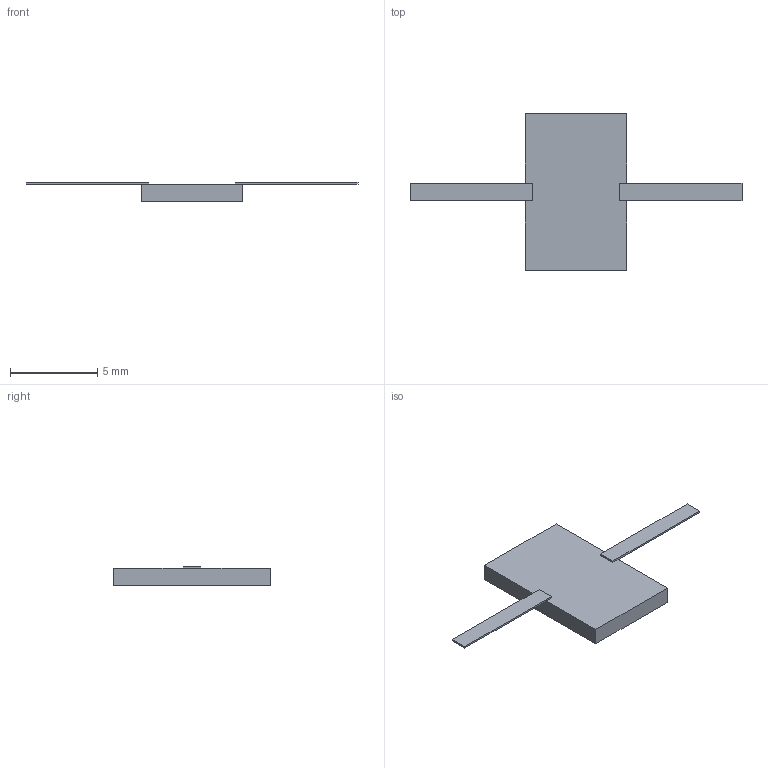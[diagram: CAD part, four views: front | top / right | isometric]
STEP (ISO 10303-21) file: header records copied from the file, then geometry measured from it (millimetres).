
FILE_DESCRIPTION(('STEP AP203'), '1');
FILE_NAME('P1-170-100-30', '', ('UNSPECIFIED'), ('UNSPECIFIED'), 'ASCON STEP Converter 1.6', 'ASCON Math Kernel', '');
FILE_SCHEMA(('CONFIG_CONTROL_DESIGN'));
Length unit declared in the file: millimetre
Bounding box: 19 x 9 x 1.1 mm (x, y, z)
Volume: 53.6 mm3; surface area: 163.6 mm2
Topology: 1 solids, 1 shells, 18 faces, 44 edges, 28 vertices
Faces by surface type: plane 18
Entity records: 704 total; most frequent: CARTESIAN_POINT 91, ORIENTED_EDGE 88, DIRECTION 82, EDGE_CURVE 44, LINE 44, VECTOR 44, VERTEX_POINT 28, AXIS2_PLACEMENT_3D 19
